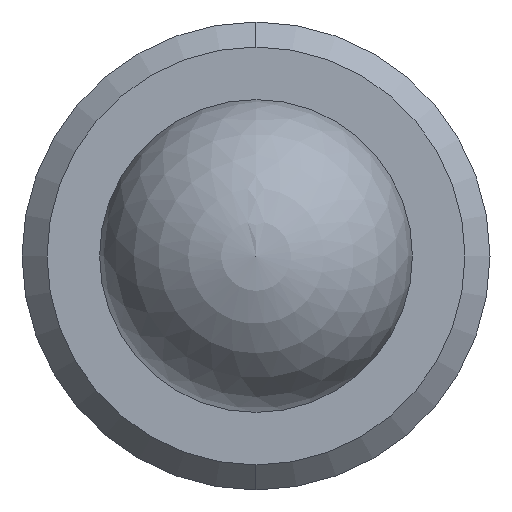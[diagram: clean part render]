
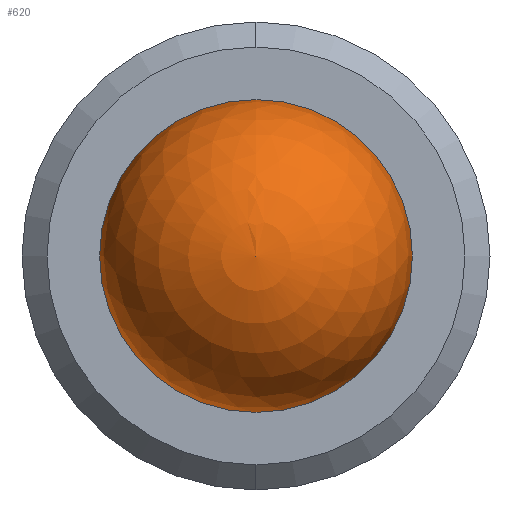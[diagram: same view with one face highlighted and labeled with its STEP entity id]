
A CAD part, left-side view. The second image highlights one B-rep face of the part: STEP entity #620.
In plain terms, the highlighted spherical face has radius 1.587 mm.
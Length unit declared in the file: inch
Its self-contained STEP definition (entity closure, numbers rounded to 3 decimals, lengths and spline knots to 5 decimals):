
#55 = DIRECTION ( 'NONE',  ( -1., 0., 0. ) ) ;
#56 = EDGE_CURVE ( 'NONE', #304, #283, #174, .T. ) ;
#58 = EDGE_CURVE ( 'NONE', #304, #283, #190, .T. ) ;
#101 = CARTESIAN_POINT ( 'NONE',  ( 0., 0., 0. ) ) ;
#174 = CIRCLE ( 'NONE', #327, 0.0625 ) ;
#183 = EDGE_LOOP ( 'NONE', ( #225, #476 ) ) ;
#190 = CIRCLE ( 'NONE', #241, 0.0625 ) ;
#197 = CARTESIAN_POINT ( 'NONE',  ( 0., 0., 0. ) ) ;
#225 = ORIENTED_EDGE ( 'NONE', *, *, #58, .F. ) ;
#241 = AXIS2_PLACEMENT_3D ( 'NONE', #197, #529, #251 ) ;
#251 = DIRECTION ( 'NONE',  ( 0., 0., -1. ) ) ;
#283 = VERTEX_POINT ( 'NONE', #425 ) ;
#304 = VERTEX_POINT ( 'NONE', #311 ) ;
#311 = CARTESIAN_POINT ( 'NONE',  ( 0., 0.0625, 0. ) ) ;
#316 = AXIS2_PLACEMENT_3D ( 'NONE', #351, #498, #352 ) ;
#327 = AXIS2_PLACEMENT_3D ( 'NONE', #101, #55, #452 ) ;
#351 = CARTESIAN_POINT ( 'NONE',  ( 0., 0., 0. ) ) ;
#352 = DIRECTION ( 'NONE',  ( 0., 0., 1. ) ) ;
#363 = FACE_OUTER_BOUND ( 'NONE', #183, .T. ) ;
#425 = CARTESIAN_POINT ( 'NONE',  ( 0., -0.0625, 0. ) ) ;
#441 = SPHERICAL_SURFACE ( 'NONE', #316, 0.0625 ) ;
#452 = DIRECTION ( 'NONE',  ( 0., 0., 1. ) ) ;
#476 = ORIENTED_EDGE ( 'NONE', *, *, #56, .T. ) ;
#498 = DIRECTION ( 'NONE',  ( -1., 0., 0. ) ) ;
#529 = DIRECTION ( 'NONE',  ( 1., 0., 0. ) ) ;
#620 = ADVANCED_FACE ( 'NONE', ( #363 ), #441, .T. ) ;
